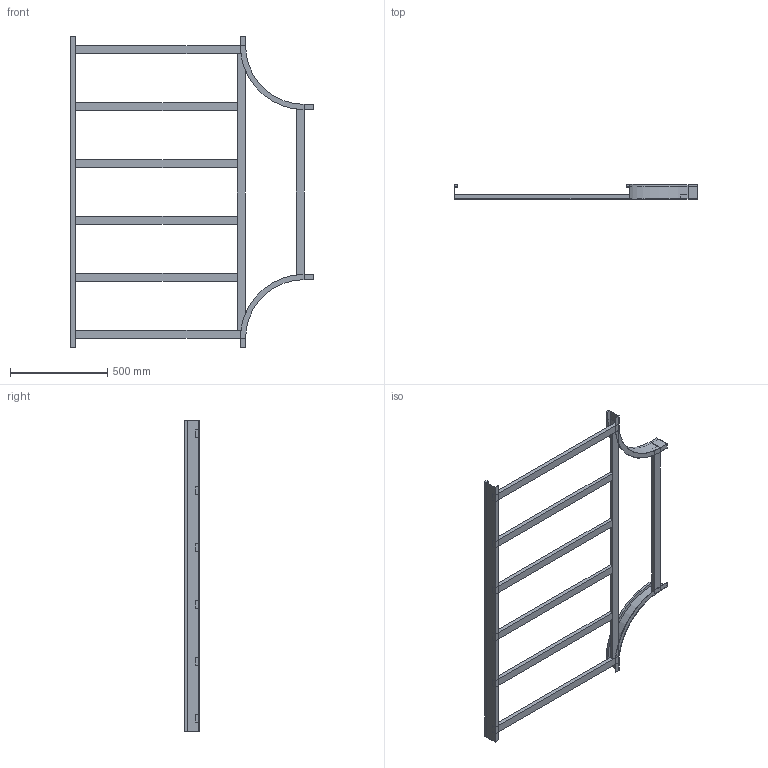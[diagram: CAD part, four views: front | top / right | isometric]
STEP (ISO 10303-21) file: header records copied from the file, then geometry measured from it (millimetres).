
FILE_DESCRIPTION (( 'STEP AP214' ), '1' );
FILE_NAME ('B2_15B3C900.step', '2025-02-21T15:54:05', ( '' ), ( '' ), 'SwSTEP 2.0', 'SolidWorks 2023', '' );
FILE_SCHEMA (( 'AUTOMOTIVE_DESIGN' ));
Length unit declared in the file: millimetre
Products named in the file (6): B2_15B3C900; B2_LONGH.RETT_H75_R300+900; TRAVERSINO_900; TRAVERSINO_INTERMEDIO_R300+900; B2_LONGH.INTERNO 90°_H75_R300; B2_TRAVERSINO_LONG._R300+900
Assembly tree (11 placements, depth 2):
  B2_15B3C900
    B2_LONGH.INTERNO 90°_H75_R300  x2
    B2_LONGH.RETT_H75_R300+900
    TRAVERSINO_900  x3
    B2_TRAVERSINO_LONG._R300+900
    TRAVERSINO_INTERMEDIO_R300+900  x4
Bounding box: 1250 x 75 x 1600 mm (x, y, z)
Volume: 7182322 mm3; surface area: 1578072.8 mm2
Topology: 11 solids, 11 shells, 110 faces, 232 edges, 144 vertices
Faces by surface type: plane 102, cylinder 8
Entity records: 1655 total; most frequent: DIRECTION 260, CARTESIAN_POINT 256, ORIENTED_EDGE 232, EDGE_CURVE 116, LINE 108, VECTOR 108, AXIS2_PLACEMENT_3D 76, VERTEX_POINT 72
